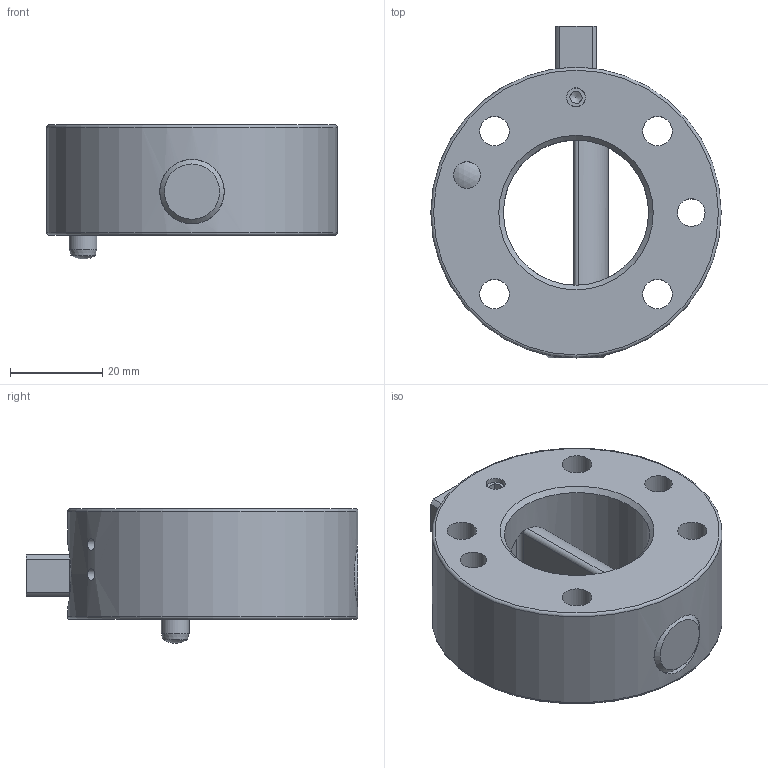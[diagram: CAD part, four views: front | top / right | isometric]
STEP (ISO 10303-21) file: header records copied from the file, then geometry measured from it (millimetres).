
FILE_DESCRIPTION((''),'2;1');
FILE_NAME('T:\CAD\Standard\Daten\3D-Datenbank\SWS\SWS063\Step-Daten\G-SWS063-2O.stp','2011-08-18T14:25:26',('Yvonne'),(''),'Autodesk Inventor 2011','Autodesk Inventor 2011','');
FILE_SCHEMA(('AUTOMOTIVE_DESIGN { 1 0 10303 214 1 1 1 1 }'));
Length unit declared in the file: millimetre
Products named in the file (1): Bauteil8
Bounding box: 63 x 72 x 29.17 mm (x, y, z)
Volume: 53181.7 mm3; surface area: 16229.8 mm2
Topology: 1 solids, 1 shells, 82 faces, 193 edges, 122 vertices
Faces by surface type: cylinder 37, plane 27, cone 8, bspline 4, torus 4, sphere 2
Full cylindrical faces by diameter (mm): 2.459 x2, 3.5 x1, 4.134 x3, 5.8 x1, 6 x2, 6.4 x4, 11 x4, 14 x2, 31.5 x1, 63 x1
Entity records: 2756 total; most frequent: CARTESIAN_POINT 928, DIRECTION 346, ORIENTED_EDGE 306, EDGE_CURVE 153, AXIS2_PLACEMENT_3D 150, EDGE_LOOP 142, VERTEX_POINT 113, STYLED_ITEM 83
